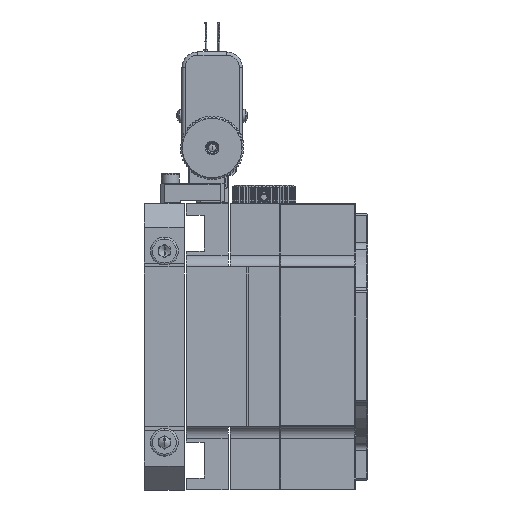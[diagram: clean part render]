
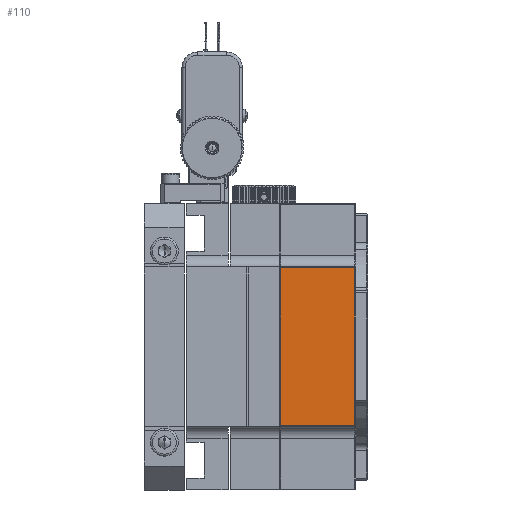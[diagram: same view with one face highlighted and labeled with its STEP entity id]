
A CAD part, front view. The second image highlights one B-rep face of the part: STEP entity #110.
In plain terms, the highlighted planar face has unit normal (0, -1, 0).
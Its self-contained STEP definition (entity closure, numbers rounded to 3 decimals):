
#110 = ADVANCED_FACE ( 'NONE', ( #27682 ), #49039, .F. ) ;
#2646 = CARTESIAN_POINT ( 'NONE',  ( 60.241, -56.279, -26.392 ) ) ;
#3021 = EDGE_CURVE ( 'NONE', #7156, #51804, #44226, .T. ) ;
#3069 = ORIENTED_EDGE ( 'NONE', *, *, #43806, .T. ) ;
#3112 = DIRECTION ( 'NONE',  ( 0., 0., 1. ) ) ;
#5328 = CARTESIAN_POINT ( 'NONE',  ( 78.841, -56.279, -26.392 ) ) ;
#5681 = EDGE_CURVE ( 'NONE', #51804, #36008, #5897, .T. ) ;
#5897 = LINE ( 'NONE', #43354, #10285 ) ;
#7156 = VERTEX_POINT ( 'NONE', #2646 ) ;
#7484 = DIRECTION ( 'NONE',  ( 1., 0., 0. ) ) ;
#7677 = CARTESIAN_POINT ( 'NONE',  ( 79.041, -56.279, -26.392 ) ) ;
#10285 = VECTOR ( 'NONE', #44342, 1000. ) ;
#10716 = EDGE_CURVE ( 'NONE', #36008, #59045, #30928, .T. ) ;
#11443 = DIRECTION ( 'NONE',  ( -1., 0., 0. ) ) ;
#12043 = CARTESIAN_POINT ( 'NONE',  ( 60.041, -56.279, 13.208 ) ) ;
#16703 = ORIENTED_EDGE ( 'NONE', *, *, #10716, .T. ) ;
#18618 = VECTOR ( 'NONE', #11443, 1000. ) ;
#21248 = CARTESIAN_POINT ( 'NONE',  ( 79.041, -56.279, -6.592 ) ) ;
#25444 = CARTESIAN_POINT ( 'NONE',  ( 60.241, -56.279, -26.592 ) ) ;
#27682 = FACE_OUTER_BOUND ( 'NONE', #42402, .T. ) ;
#30928 = LINE ( 'NONE', #12043, #18618 ) ;
#31858 = VECTOR ( 'NONE', #7484, 1000. ) ;
#35020 = DIRECTION ( 'NONE',  ( 0., 1., 0. ) ) ;
#35069 = ORIENTED_EDGE ( 'NONE', *, *, #5681, .T. ) ;
#36008 = VERTEX_POINT ( 'NONE', #59047 ) ;
#37896 = CARTESIAN_POINT ( 'NONE',  ( 60.241, -56.279, 13.208 ) ) ;
#42375 = VECTOR ( 'NONE', #57961, 1000. ) ;
#42402 = EDGE_LOOP ( 'NONE', ( #46478, #35069, #16703, #3069 ) ) ;
#43354 = CARTESIAN_POINT ( 'NONE',  ( 78.841, -56.279, 13.208 ) ) ;
#43709 = AXIS2_PLACEMENT_3D ( 'NONE', #21248, #35020, #3112 ) ;
#43806 = EDGE_CURVE ( 'NONE', #59045, #7156, #52520, .T. ) ;
#44226 = LINE ( 'NONE', #7677, #31858 ) ;
#44342 = DIRECTION ( 'NONE',  ( 0., 0., 1. ) ) ;
#46478 = ORIENTED_EDGE ( 'NONE', *, *, #3021, .T. ) ;
#49039 = PLANE ( 'NONE',  #43709 ) ;
#51804 = VERTEX_POINT ( 'NONE', #5328 ) ;
#52520 = LINE ( 'NONE', #25444, #42375 ) ;
#57961 = DIRECTION ( 'NONE',  ( 0., 0., -1. ) ) ;
#59045 = VERTEX_POINT ( 'NONE', #37896 ) ;
#59047 = CARTESIAN_POINT ( 'NONE',  ( 78.841, -56.279, 13.208 ) ) ;
